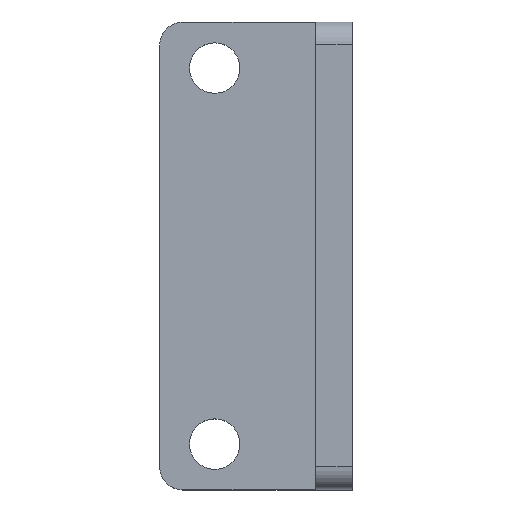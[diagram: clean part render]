
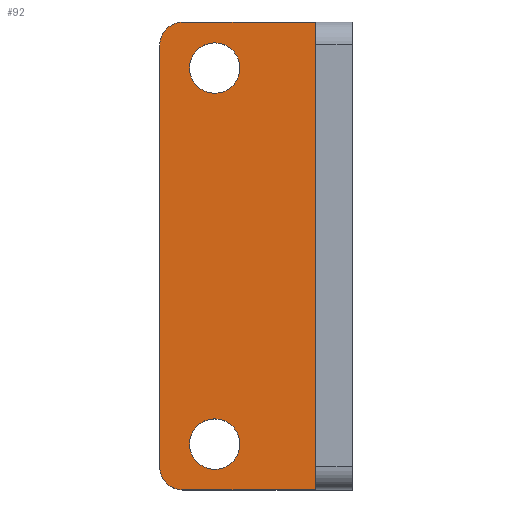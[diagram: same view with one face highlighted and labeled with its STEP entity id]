
A CAD part, top view. The second image highlights one B-rep face of the part: STEP entity #92.
In plain terms, the highlighted planar face has unit normal (0, 0, 1).
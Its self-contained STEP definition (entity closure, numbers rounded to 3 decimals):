
#4 = VERTEX_POINT ( 'NONE', #345 ) ;
#5 = ORIENTED_EDGE ( 'NONE', *, *, #6, .T. ) ;
#6 = EDGE_CURVE ( 'NONE', #4, #7, #344, .T. ) ;
#7 = VERTEX_POINT ( 'NONE', #397 ) ;
#9 = EDGE_LOOP ( 'NONE', ( #10, #11 ) ) ;
#10 = ORIENTED_EDGE ( 'NONE', *, *, #238, .F. ) ;
#11 = ORIENTED_EDGE ( 'NONE', *, *, #12, .F. ) ;
#12 = EDGE_CURVE ( 'NONE', #240, #239, #396, .T. ) ;
#22 = EDGE_CURVE ( 'NONE', #83, #44, #307, .T. ) ;
#41 = EDGE_LOOP ( 'NONE', ( #104, #5, #144, #105, #98, #86 ) ) ;
#44 = VERTEX_POINT ( 'NONE', #256 ) ;
#74 = EDGE_CURVE ( 'NONE', #75, #4, #216, .T. ) ;
#75 = VERTEX_POINT ( 'NONE', #212 ) ;
#76 = ORIENTED_EDGE ( 'NONE', *, *, #22, .F. ) ;
#82 = VERTEX_POINT ( 'NONE', #291 ) ;
#83 = VERTEX_POINT ( 'NONE', #290 ) ;
#85 = VERTEX_POINT ( 'NONE', #335 ) ;
#86 = ORIENTED_EDGE ( 'NONE', *, *, #87, .F. ) ;
#87 = EDGE_CURVE ( 'NONE', #75, #85, #334, .T. ) ;
#88 = EDGE_LOOP ( 'NONE', ( #76, #89 ) ) ;
#89 = ORIENTED_EDGE ( 'NONE', *, *, #90, .F. ) ;
#90 = EDGE_CURVE ( 'NONE', #44, #83, #330, .T. ) ;
#92 = ADVANCED_FACE ( 'NONE', ( #244, #243, #242 ), #241, .T. ) ;
#98 = ORIENTED_EDGE ( 'NONE', *, *, #99, .T. ) ;
#99 = EDGE_CURVE ( 'NONE', #106, #85, #373, .T. ) ;
#100 = EDGE_CURVE ( 'NONE', #82, #106, #408, .T. ) ;
#104 = ORIENTED_EDGE ( 'NONE', *, *, #74, .T. ) ;
#105 = ORIENTED_EDGE ( 'NONE', *, *, #100, .T. ) ;
#106 = VERTEX_POINT ( 'NONE', #431 ) ;
#144 = ORIENTED_EDGE ( 'NONE', *, *, #145, .T. ) ;
#145 = EDGE_CURVE ( 'NONE', #7, #82, #694, .T. ) ;
#212 = CARTESIAN_POINT ( 'NONE',  ( 13., 51., 8. ) ) ;
#213 = DIRECTION ( 'NONE',  ( -1., 0., 0. ) ) ;
#214 = VECTOR ( 'NONE', #213, 1000. ) ;
#215 = CARTESIAN_POINT ( 'NONE',  ( -21., 51., 8. ) ) ;
#216 = LINE ( 'NONE', #215, #214 ) ;
#225 = DIRECTION ( 'NONE',  ( -1., 0., 0. ) ) ;
#226 = DIRECTION ( 'NONE',  ( 0., 0., 1. ) ) ;
#238 = EDGE_CURVE ( 'NONE', #239, #240, #678, .T. ) ;
#239 = VERTEX_POINT ( 'NONE', #645 ) ;
#240 = VERTEX_POINT ( 'NONE', #644 ) ;
#241 = PLANE ( 'NONE',  #389 ) ;
#242 = FACE_BOUND ( 'NONE', #9, .T. ) ;
#243 = FACE_BOUND ( 'NONE', #88, .T. ) ;
#244 = FACE_OUTER_BOUND ( 'NONE', #41, .T. ) ;
#249 = DIRECTION ( 'NONE',  ( 1., 0., 0. ) ) ;
#250 = DIRECTION ( 'NONE',  ( 0., 0., 1. ) ) ;
#251 = CARTESIAN_POINT ( 'NONE',  ( -9., 41., 8. ) ) ;
#252 = AXIS2_PLACEMENT_3D ( 'NONE', #251, #250, #249 ) ;
#256 = CARTESIAN_POINT ( 'NONE',  ( -3.5, 41., 8. ) ) ;
#290 = CARTESIAN_POINT ( 'NONE',  ( -14.5, 41., 8. ) ) ;
#291 = CARTESIAN_POINT ( 'NONE',  ( -21., -46., 8. ) ) ;
#303 = DIRECTION ( 'NONE',  ( 1., 0., 0. ) ) ;
#304 = DIRECTION ( 'NONE',  ( 0., 0., 1. ) ) ;
#305 = CARTESIAN_POINT ( 'NONE',  ( -9., 41., 8. ) ) ;
#306 = AXIS2_PLACEMENT_3D ( 'NONE', #305, #304, #303 ) ;
#307 = CIRCLE ( 'NONE', #306, 5.5 ) ;
#330 = CIRCLE ( 'NONE', #252, 5.5 ) ;
#331 = DIRECTION ( 'NONE',  ( 0., -1., 0. ) ) ;
#332 = VECTOR ( 'NONE', #331, 1000. ) ;
#333 = CARTESIAN_POINT ( 'NONE',  ( 13., 51., 8. ) ) ;
#334 = LINE ( 'NONE', #333, #332 ) ;
#335 = CARTESIAN_POINT ( 'NONE',  ( 13., -51., 8. ) ) ;
#342 = CARTESIAN_POINT ( 'NONE',  ( -16., 46., 8. ) ) ;
#343 = AXIS2_PLACEMENT_3D ( 'NONE', #342, #399, #398 ) ;
#344 = CIRCLE ( 'NONE', #343, 5. ) ;
#345 = CARTESIAN_POINT ( 'NONE',  ( -16., 51., 8. ) ) ;
#371 = VECTOR ( 'NONE', #409, 1000. ) ;
#372 = CARTESIAN_POINT ( 'NONE',  ( -21., -51., 8. ) ) ;
#373 = LINE ( 'NONE', #372, #371 ) ;
#386 = DIRECTION ( 'NONE',  ( 1., 0., 0. ) ) ;
#387 = DIRECTION ( 'NONE',  ( 0., 0., 1. ) ) ;
#388 = CARTESIAN_POINT ( 'NONE',  ( -21., 51., 8. ) ) ;
#389 = AXIS2_PLACEMENT_3D ( 'NONE', #388, #387, #386 ) ;
#394 = CARTESIAN_POINT ( 'NONE',  ( -9., -41., 8. ) ) ;
#395 = AXIS2_PLACEMENT_3D ( 'NONE', #394, #226, #225 ) ;
#396 = CIRCLE ( 'NONE', #395, 5.5 ) ;
#397 = CARTESIAN_POINT ( 'NONE',  ( -21., 46., 8. ) ) ;
#398 = DIRECTION ( 'NONE',  ( 1., 0., 0. ) ) ;
#399 = DIRECTION ( 'NONE',  ( 0., 0., 1. ) ) ;
#404 = DIRECTION ( 'NONE',  ( 1., 0., 0. ) ) ;
#405 = DIRECTION ( 'NONE',  ( 0., 0., 1. ) ) ;
#406 = CARTESIAN_POINT ( 'NONE',  ( -16., -46., 8. ) ) ;
#407 = AXIS2_PLACEMENT_3D ( 'NONE', #406, #405, #404 ) ;
#408 = CIRCLE ( 'NONE', #407, 5. ) ;
#409 = DIRECTION ( 'NONE',  ( 1., 0., 0. ) ) ;
#425 = DIRECTION ( 'NONE',  ( 0., -1., 0. ) ) ;
#431 = CARTESIAN_POINT ( 'NONE',  ( -16., -51., 8. ) ) ;
#644 = CARTESIAN_POINT ( 'NONE',  ( -3.5, -41., 8. ) ) ;
#645 = CARTESIAN_POINT ( 'NONE',  ( -14.5, -41., 8. ) ) ;
#646 = DIRECTION ( 'NONE',  ( -1., 0., 0. ) ) ;
#647 = DIRECTION ( 'NONE',  ( 0., 0., 1. ) ) ;
#676 = CARTESIAN_POINT ( 'NONE',  ( -9., -41., 8. ) ) ;
#677 = AXIS2_PLACEMENT_3D ( 'NONE', #676, #647, #646 ) ;
#678 = CIRCLE ( 'NONE', #677, 5.5 ) ;
#692 = VECTOR ( 'NONE', #425, 1000. ) ;
#693 = CARTESIAN_POINT ( 'NONE',  ( -21., 51., 8. ) ) ;
#694 = LINE ( 'NONE', #693, #692 ) ;
